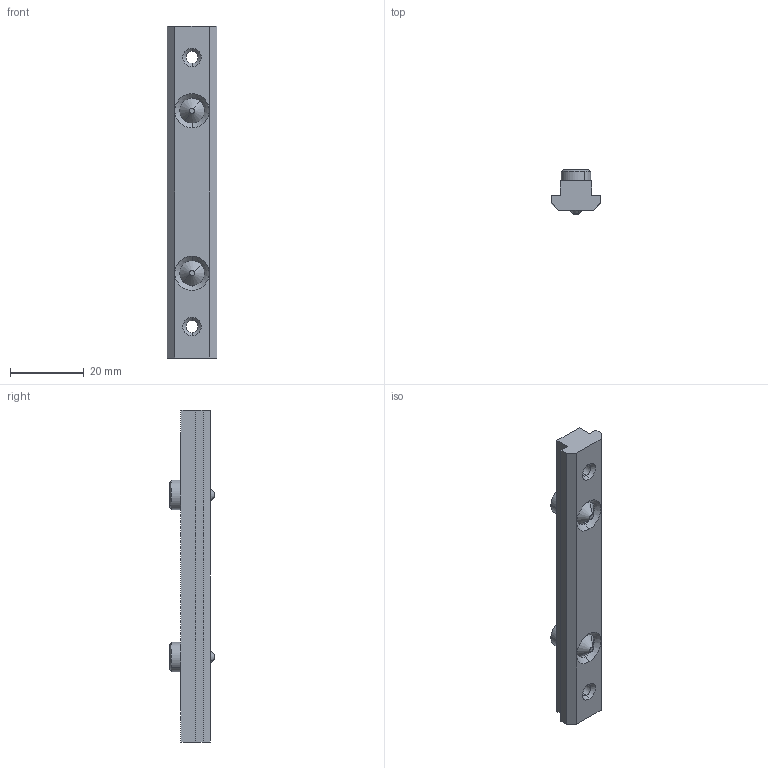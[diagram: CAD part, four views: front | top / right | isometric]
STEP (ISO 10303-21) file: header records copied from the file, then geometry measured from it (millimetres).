
FILE_DESCRIPTION (( 'STEP AP214' ), '1' );
FILE_NAME ('1.3010 t-urakisko 90.STEP', '2024-01-30T11:43:27', ( '' ), ( '' ), 'SwSTEP 2.0', 'SolidWorks 2024', '' );
FILE_SCHEMA (( 'AUTOMOTIVE_DESIGN' ));
Length unit declared in the file: millimetre
Products named in the file (1): 1.3010 t-urakisko 90
Bounding box: 13.4 x 12 x 90 mm (x, y, z)
Volume: 7599.9 mm3; surface area: 4878.8 mm2
Topology: 3 solids, 3 shells, 68 faces, 158 edges, 96 vertices
Faces by surface type: plane 32, cone 24, cylinder 12
Entity records: 1967 total; most frequent: DIRECTION 348, CARTESIAN_POINT 323, ORIENTED_EDGE 316, EDGE_CURVE 158, AXIS2_PLACEMENT_3D 121, VECTOR 106, LINE 106, VERTEX_POINT 96
